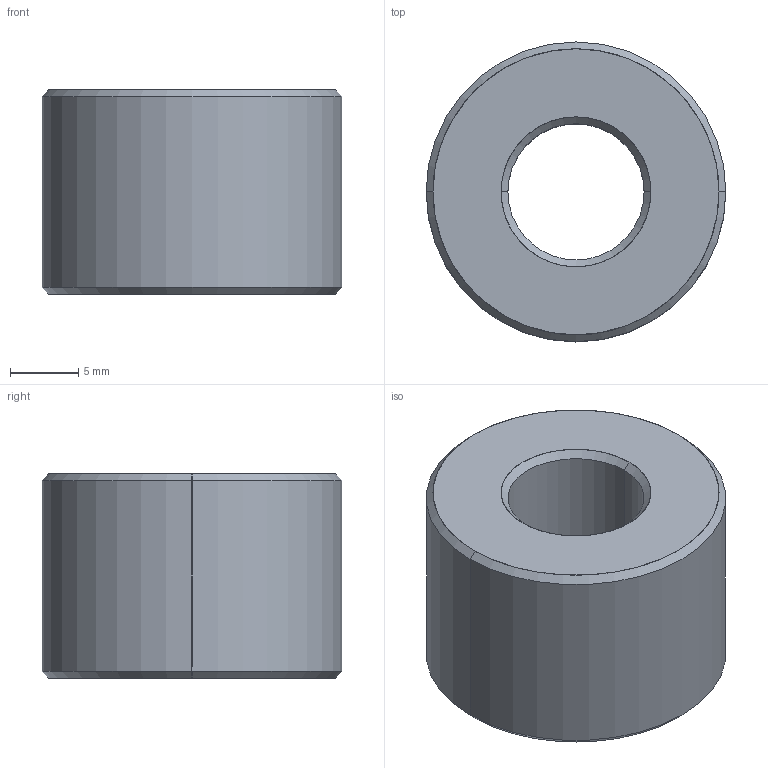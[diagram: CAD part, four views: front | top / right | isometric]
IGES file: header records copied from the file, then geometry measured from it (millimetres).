
Start section: SolidWorks IGES file using analytic representation for surfaces
Global section: file name: C:\Users\ianosborn\Desktop\L1339_v2\L1339_v2_20241024_IGES\L1339.L10-02.igs; native system: SolidWorks 2019; preprocessor: SolidWorks 2019; author: IanOsborn; date: 241024.150443; units: millimetre
Bounding box: 22 x 22 x 15 mm (x, y, z)
Surface area: 2052.3 mm2 (no closed solid volume)
Topology: 0 solids, 0 shells, 14 faces, 176 edges, 176 vertices
Faces by surface type: revolution 12, bspline 2
